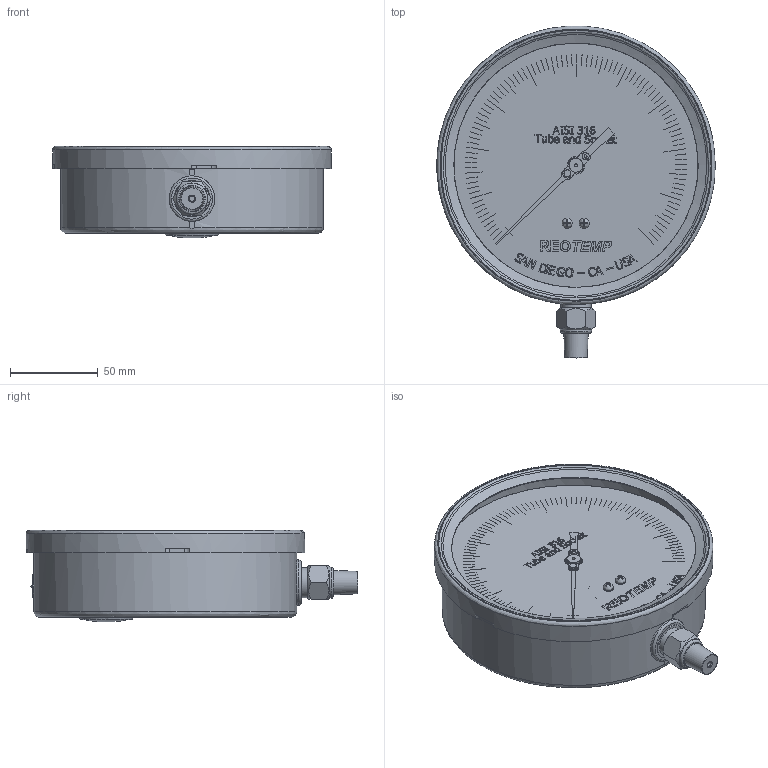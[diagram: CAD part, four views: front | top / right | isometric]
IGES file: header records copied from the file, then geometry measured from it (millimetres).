
Global section: file name: PR60-quarter-NPT-Bottom-Connect-IGS; native system: Autodesk Inventor 2014; preprocessor: unknown; author: Charles; date: 20151106.162114; units: inch
Bounding box: 158.75 x 189.16 x 52.08 mm (x, y, z)
Volume: 646802.4 mm3; surface area: 80621.3 mm2
Topology: 2 solids, 5 shells, 1331 faces, 3450 edges, 2297 vertices
Faces by surface type: bspline 1331
